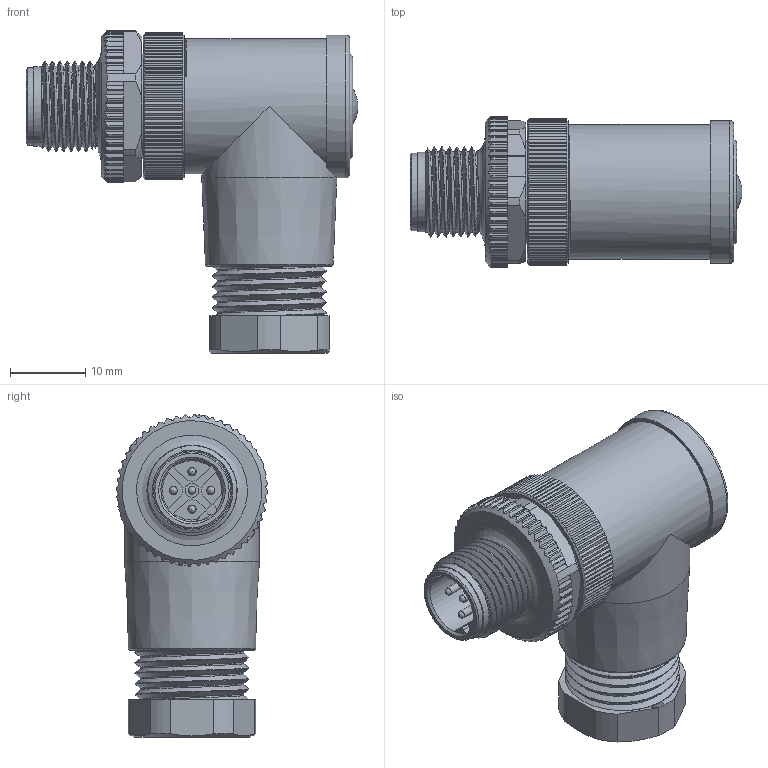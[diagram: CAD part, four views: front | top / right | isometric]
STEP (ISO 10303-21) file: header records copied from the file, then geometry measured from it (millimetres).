
FILE_DESCRIPTION(/* description */ (''),/* implementation_level */ '2;1');
FILE_NAME(/* name */ '99 0437 145 05 001_00.stp',/* time_stamp */ '2017-07-21T10:57:03+02:00',/* author */ (''),/* organization */ (''),/* preprocessor_version */ 'ST-DEVELOPER v16',/* originating_system */ 'SIEMENS PLM Software NX 11.0',/* authorisation */ '');
FILE_SCHEMA (('AUTOMOTIVE_DESIGN { 1 0 10303 214 3 1 1 1 }'));
Length unit declared in the file: millimetre
Products named in the file (1): smag1744FAF3fb6n
Bounding box: 44.2 x 20.19 x 42.99 mm (x, y, z)
Volume: 14582.6 mm3; surface area: 6689.8 mm2
Topology: 1 solids, 4 shells, 694 faces, 1991 edges, 1321 vertices
Faces by surface type: plane 396, cylinder 253, cone 19, bspline 14, torus 6, sphere 6
Full cylindrical faces by diameter (mm): 1 x5, 1.1 x4, 1.85 x1, 9.4 x1, 9.5 x1, 9.6 x1, 10.3 x1, 10.6 x1, 13.9 x1, 15.8 x1, 18 x2, 19 x2
Entity records: 30612 total; most frequent: CARTESIAN_POINT 13364, ORIENTED_EDGE 3834, DIRECTION 3235, EDGE_CURVE 1917, VERTEX_POINT 1290, AXIS2_PLACEMENT_3D 1127, LINE 981, VECTOR 981
